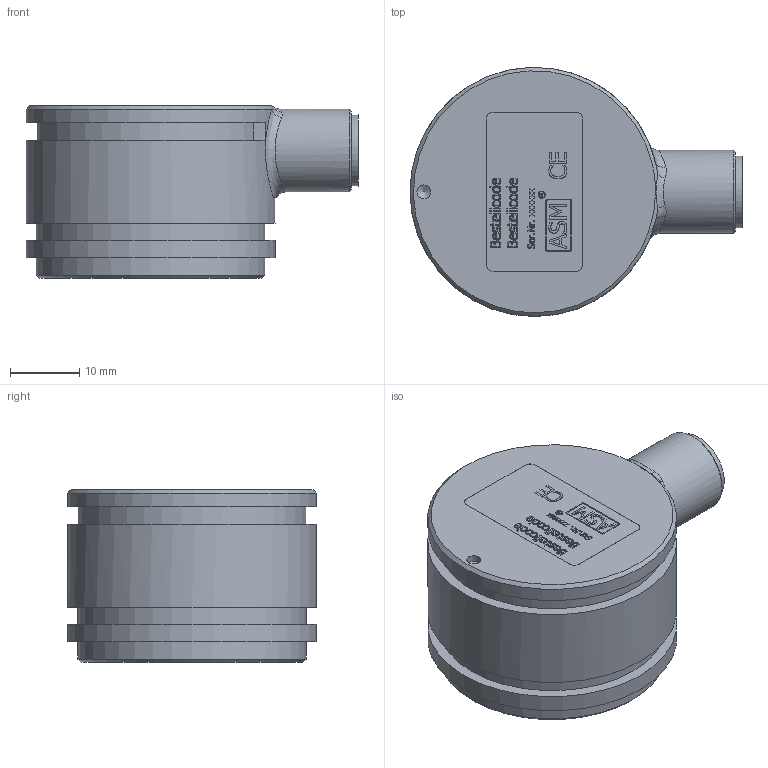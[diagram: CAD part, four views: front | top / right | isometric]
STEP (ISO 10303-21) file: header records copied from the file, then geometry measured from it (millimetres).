
FILE_DESCRIPTION((''),'2;1');
FILE_NAME('K:\Daten\pras2r.stp','2010-04-14T15:07:09',('kamp'),(''),'Autodesk Inventor 2008','Autodesk Inventor 2008','');
FILE_SCHEMA(('AUTOMOTIVE_DESIGN { 1 0 10303 214 1 1 1 1 }'));
Length unit declared in the file: millimetre
Products named in the file (1): Bauteil3
Bounding box: 48 x 36 x 25.01 mm (x, y, z)
Volume: 25128 mm3; surface area: 6161.5 mm2
Topology: 1 solids, 1 shells, 725 faces, 1964 edges, 1304 vertices
Faces by surface type: plane 391, bspline 294, cylinder 32, sphere 5, cone 3
Full cylindrical faces by diameter (mm): 0.923 x1, 1 x5, 1.024 x1, 8.3 x1, 10.4 x1, 12 x1, 33 x2, 36 x2
Entity records: 25246 total; most frequent: CARTESIAN_POINT 8410, ORIENTED_EDGE 3852, DIRECTION 2300, EDGE_CURVE 1926, VERTEX_POINT 1296, VECTOR 1248, LINE 1248, EDGE_LOOP 818
